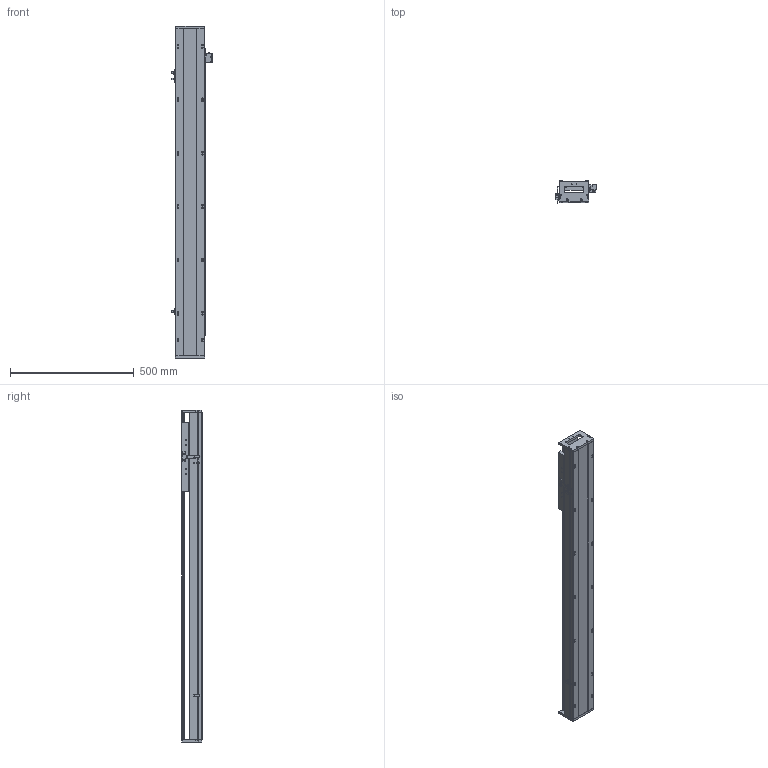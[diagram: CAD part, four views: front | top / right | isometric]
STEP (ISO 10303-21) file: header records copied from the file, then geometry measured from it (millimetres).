
FILE_DESCRIPTION (( 'STEP AP203' ), '1' );
FILE_NAME ('SKR12S-C2-S964（简）.STEP', '2022-09-26T05:17:53', ( '' ), ( '' ), 'SwSTEP 2.0', 'SolidWorks 2018', '' );
FILE_SCHEMA (( 'CONFIG_CONTROL_DESIGN' ));
Length unit declared in the file: millimetre
Products named in the file (8): SKR12S-C2-S964（简）; SKR12滑台-280L（简）; SKR12菁釱-C2-S964(潠); EE-SX672; SIKO棠掑; 覜茼え; SKR12耜啣; 棠掑假蚾輸
Assembly tree (10 placements, depth 2):
  SKR12S-C2-S964（简）
    SKR12菁釱-C2-S964(潠)
    SKR12滑台-280L（简）
    SKR12耜啣  x2
    棠掑假蚾輸
    SIKO棠掑
    EE-SX672  x3
    覜茼え
Bounding box: 162.7 x 87.3 x 1344 mm (x, y, z)
Volume: 6260839.5 mm3; surface area: 1002788.9 mm2
Topology: 11 solids, 11 shells, 1010 faces, 2689 edges, 1699 vertices
Faces by surface type: cylinder 468, plane 404, cone 138
Entity records: 27683 total; most frequent: CARTESIAN_POINT 5639, DIRECTION 4557, ORIENTED_EDGE 4334, EDGE_CURVE 2167, AXIS2_PLACEMENT_3D 1689, VERTEX_POINT 1403, VECTOR 1179, LINE 1179
